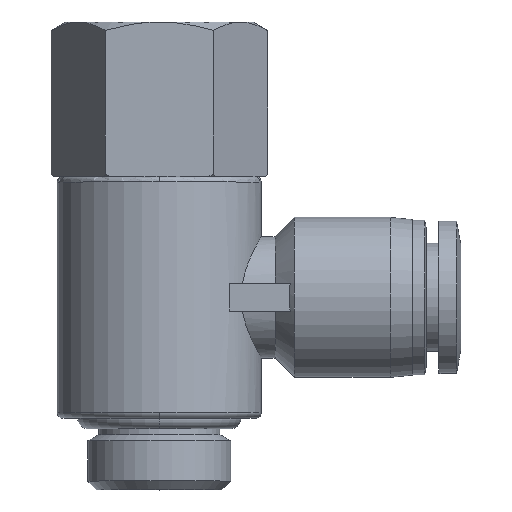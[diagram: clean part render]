
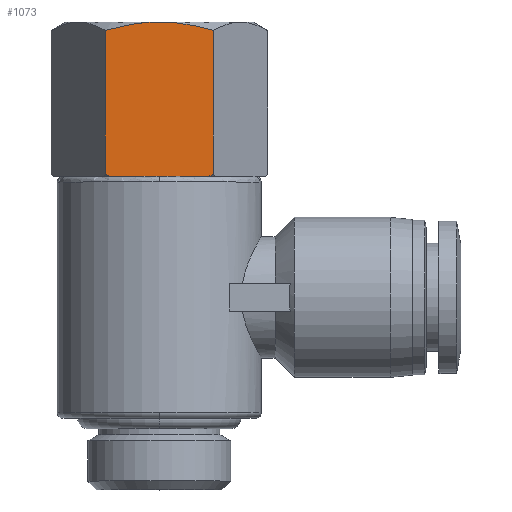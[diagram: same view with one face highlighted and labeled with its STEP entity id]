
A CAD part, top view. The second image highlights one B-rep face of the part: STEP entity #1073.
In plain terms, the highlighted planar face has unit normal (0, 0, 1).
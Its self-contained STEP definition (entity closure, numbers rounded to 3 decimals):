
#2 = CARTESIAN_POINT ( 'NONE',  ( 2.077, 38.4, 8.5 ) ) ;
#20 = CARTESIAN_POINT ( 'NONE',  ( 4.494, 38.4, 8.5 ) ) ;
#157 = ORIENTED_EDGE ( 'NONE', *, *, #1356, .F. ) ;
#184 = VERTEX_POINT ( 'NONE', #2 ) ;
#222 = LINE ( 'NONE', #20, #2774 ) ;
#265 = CARTESIAN_POINT ( 'NONE',  ( 4.494, 38.4, 8.5 ) ) ;
#266 =( BOUNDED_CURVE ( )  B_SPLINE_CURVE ( 2, ( #2272, #1201, #2104 ),
 .UNSPECIFIED., .F., .T. ) 
 B_SPLINE_CURVE_WITH_KNOTS ( ( 3, 3 ),
 ( 0.498, 0.996 ),
 .UNSPECIFIED. ) 
 CURVE ( )  GEOMETRIC_REPRESENTATION_ITEM ( )  RATIONAL_B_SPLINE_CURVE ( ( 1., 1.038, 1. ) ) 
 REPRESENTATION_ITEM ( '' )  );
#339 = DIRECTION ( 'NONE',  ( -1., 0., 0. ) ) ;
#393 = EDGE_CURVE ( 'NONE', #2656, #2365, #1908, .T. ) ;
#458 = ORIENTED_EDGE ( 'NONE', *, *, #393, .F. ) ;
#466 = ORIENTED_EDGE ( 'NONE', *, *, #601, .F. ) ;
#509 = CARTESIAN_POINT ( 'NONE',  ( -4.699, 38.496, 8.5 ) ) ;
#601 = EDGE_CURVE ( 'NONE', #2687, #2411, #266, .T. ) ;
#640 = ORIENTED_EDGE ( 'NONE', *, *, #1568, .F. ) ;
#709 = CARTESIAN_POINT ( 'NONE',  ( -4.494, 38.4, 8.5 ) ) ;
#710 = VERTEX_POINT ( 'NONE', #2791 ) ;
#739 = DIRECTION ( 'NONE',  ( 0., 1., 0. ) ) ;
#747 =( BOUNDED_CURVE ( )  B_SPLINE_CURVE ( 2, ( #1578, #2273, #2455 ),
 .UNSPECIFIED., .F., .F. ) 
 B_SPLINE_CURVE_WITH_KNOTS ( ( 3, 3 ),
 ( 0., 0.498 ),
 .UNSPECIFIED. ) 
 CURVE ( )  GEOMETRIC_REPRESENTATION_ITEM ( )  RATIONAL_B_SPLINE_CURVE ( ( 1., 1.038, 1. ) ) 
 REPRESENTATION_ITEM ( '' )  );
#749 = PLANE ( 'NONE',  #2667 ) ;
#752 = LINE ( 'NONE', #2071, #2048 ) ;
#777 = ORIENTED_EDGE ( 'NONE', *, *, #2548, .F. ) ;
#819 = LINE ( 'NONE', #1469, #1470 ) ;
#884 = EDGE_CURVE ( 'NONE', #1300, #184, #222, .T. ) ;
#931 = CARTESIAN_POINT ( 'NONE',  ( 4.907, 51.641, 8.5 ) ) ;
#1008 = DIRECTION ( 'NONE',  ( 0., 0., 1. ) ) ;
#1014 = VECTOR ( 'NONE', #1361, 1000. ) ;
#1030 = EDGE_CURVE ( 'NONE', #2365, #1491, #2808, .T. ) ;
#1053 = CARTESIAN_POINT ( 'NONE',  ( 4.494, 38.4, 8.5 ) ) ;
#1056 = CARTESIAN_POINT ( 'NONE',  ( -4.907, 38.6, 8.5 ) ) ;
#1073 = ADVANCED_FACE ( 'NONE', ( #1893 ), #749, .T. ) ;
#1074 = ORIENTED_EDGE ( 'NONE', *, *, #1678, .F. ) ;
#1201 = CARTESIAN_POINT ( 'NONE',  ( 2.278, 52.4, 8.5 ) ) ;
#1300 = VERTEX_POINT ( 'NONE', #1053 ) ;
#1356 = EDGE_CURVE ( 'NONE', #1491, #710, #752, .T. ) ;
#1361 = DIRECTION ( 'NONE',  ( -1., 0., 0. ) ) ;
#1390 = VECTOR ( 'NONE', #339, 1000. ) ;
#1447 = ORIENTED_EDGE ( 'NONE', *, *, #2050, .F. ) ;
#1469 = CARTESIAN_POINT ( 'NONE',  ( 4.907, 51.641, 8.5 ) ) ;
#1470 = VECTOR ( 'NONE', #1508, 1000. ) ;
#1472 =( BOUNDED_CURVE ( )  B_SPLINE_CURVE ( 2, ( #2799, #1860, #265 ),
 .UNSPECIFIED., .F., .F. ) 
 B_SPLINE_CURVE_WITH_KNOTS ( ( 3, 3 ),
 ( 0., 0.046 ),
 .UNSPECIFIED. ) 
 CURVE ( )  GEOMETRIC_REPRESENTATION_ITEM ( )  RATIONAL_B_SPLINE_CURVE ( ( 1., 1., 1. ) ) 
 REPRESENTATION_ITEM ( '' )  );
#1491 = VERTEX_POINT ( 'NONE', #1056 ) ;
#1508 = DIRECTION ( 'NONE',  ( 0., -1., 0. ) ) ;
#1568 = EDGE_CURVE ( 'NONE', #184, #2656, #2505, .T. ) ;
#1578 = CARTESIAN_POINT ( 'NONE',  ( -4.907, 51.641, 8.5 ) ) ;
#1625 = CARTESIAN_POINT ( 'NONE',  ( -4.907, 52.4, 8.5 ) ) ;
#1669 = CARTESIAN_POINT ( 'NONE',  ( -4.907, 38.6, 8.5 ) ) ;
#1678 = EDGE_CURVE ( 'NONE', #1785, #1300, #1472, .T. ) ;
#1768 = ORIENTED_EDGE ( 'NONE', *, *, #884, .F. ) ;
#1785 = VERTEX_POINT ( 'NONE', #2540 ) ;
#1860 = CARTESIAN_POINT ( 'NONE',  ( 4.699, 38.496, 8.5 ) ) ;
#1893 = FACE_OUTER_BOUND ( 'NONE', #2820, .T. ) ;
#1908 = LINE ( 'NONE', #2801, #1390 ) ;
#2003 = CARTESIAN_POINT ( 'NONE',  ( 0., 52.4, 8.5 ) ) ;
#2048 = VECTOR ( 'NONE', #739, 1000. ) ;
#2050 = EDGE_CURVE ( 'NONE', #710, #2687, #747, .T. ) ;
#2071 = CARTESIAN_POINT ( 'NONE',  ( -4.907, 38.6, 8.5 ) ) ;
#2104 = CARTESIAN_POINT ( 'NONE',  ( 4.907, 51.641, 8.5 ) ) ;
#2242 = DIRECTION ( 'NONE',  ( -1., 0., 0. ) ) ;
#2266 = CARTESIAN_POINT ( 'NONE',  ( 2.077, 38.4, 8.5 ) ) ;
#2272 = CARTESIAN_POINT ( 'NONE',  ( 0., 52.4, 8.5 ) ) ;
#2273 = CARTESIAN_POINT ( 'NONE',  ( -2.278, 52.4, 8.5 ) ) ;
#2365 = VERTEX_POINT ( 'NONE', #2886 ) ;
#2411 = VERTEX_POINT ( 'NONE', #931 ) ;
#2455 = CARTESIAN_POINT ( 'NONE',  ( 0., 52.4, 8.5 ) ) ;
#2505 = LINE ( 'NONE', #2266, #1014 ) ;
#2540 = CARTESIAN_POINT ( 'NONE',  ( 4.907, 38.6, 8.5 ) ) ;
#2548 = EDGE_CURVE ( 'NONE', #2411, #1785, #819, .T. ) ;
#2656 = VERTEX_POINT ( 'NONE', #2810 ) ;
#2667 = AXIS2_PLACEMENT_3D ( 'NONE', #1625, #1008, #2775 ) ;
#2687 = VERTEX_POINT ( 'NONE', #2003 ) ;
#2774 = VECTOR ( 'NONE', #2242, 1000. ) ;
#2775 = DIRECTION ( 'NONE',  ( 1., 0., 0. ) ) ;
#2791 = CARTESIAN_POINT ( 'NONE',  ( -4.907, 51.641, 8.5 ) ) ;
#2799 = CARTESIAN_POINT ( 'NONE',  ( 4.907, 38.6, 8.5 ) ) ;
#2801 = CARTESIAN_POINT ( 'NONE',  ( -2.077, 38.4, 8.5 ) ) ;
#2805 = ORIENTED_EDGE ( 'NONE', *, *, #1030, .F. ) ;
#2808 =( BOUNDED_CURVE ( )  B_SPLINE_CURVE ( 2, ( #709, #509, #1669 ),
 .UNSPECIFIED., .F., .F. ) 
 B_SPLINE_CURVE_WITH_KNOTS ( ( 3, 3 ),
 ( 0., 0.046 ),
 .UNSPECIFIED. ) 
 CURVE ( )  GEOMETRIC_REPRESENTATION_ITEM ( )  RATIONAL_B_SPLINE_CURVE ( ( 1., 1., 1. ) ) 
 REPRESENTATION_ITEM ( '' )  );
#2810 = CARTESIAN_POINT ( 'NONE',  ( -2.077, 38.4, 8.5 ) ) ;
#2820 = EDGE_LOOP ( 'NONE', ( #1447, #157, #2805, #458, #640, #1768, #1074, #777, #466 ) ) ;
#2886 = CARTESIAN_POINT ( 'NONE',  ( -4.494, 38.4, 8.5 ) ) ;
